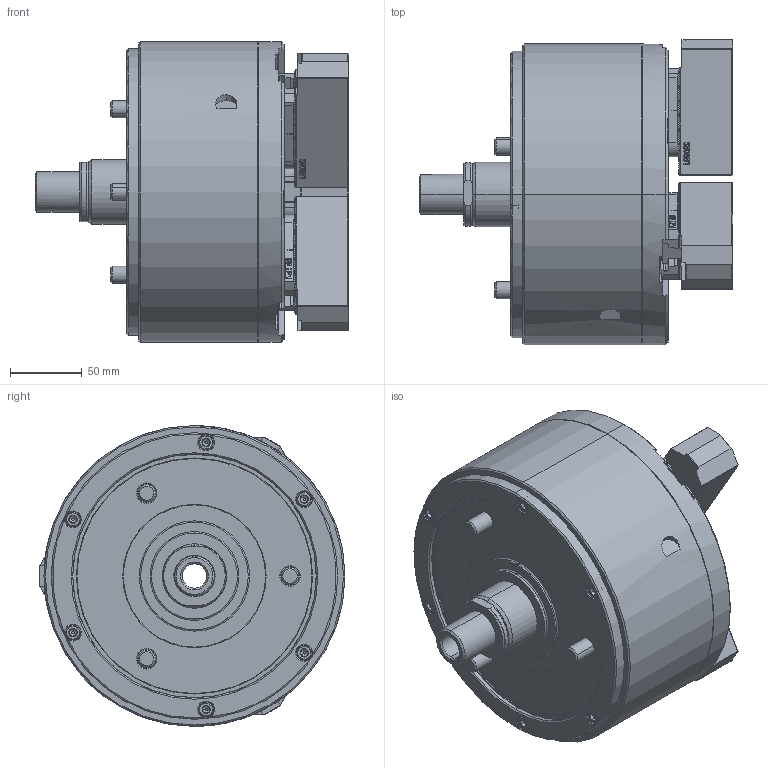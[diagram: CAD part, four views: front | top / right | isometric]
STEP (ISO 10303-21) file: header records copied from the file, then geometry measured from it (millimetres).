
FILE_DESCRIPTION (( 'STEP AP214' ), '1' );
FILE_NAME ('DL208_OC_ID.STEP', '2019-11-12T03:50:08', ( '' ), ( '' ), 'SwSTEP 2.0', 'SolidWorks 2017', '' );
FILE_SCHEMA (( 'AUTOMOTIVE_DESIGN' ));
Length unit declared in the file: millimetre
Products named in the file (10): 61P451466; 61P304291; DL208_OC_ID; 結合_ID; 0030112030
Assembly tree (13 placements, depth 2):
  DL208_OC_ID
    61P304291  x3
    61P451466  x3
    0030112030
    0030112030
    0030112030
    0030112030
    0030112030
    0030112030
    結合_ID
Bounding box: 218.76 x 213.45 x 210 mm (x, y, z)
Volume: 4021806.6 mm3; surface area: 314694.4 mm2
Topology: 13 solids, 13 shells, 7050 faces, 19490 edges, 12762 vertices
Faces by surface type: plane 4010, cylinder 1456, bspline 1189, cone 357, torus 38
Entity records: 208924 total; most frequent: CARTESIAN_POINT 78478, ORIENTED_EDGE 30332, DIRECTION 21819, EDGE_CURVE 15166, VECTOR 10235, LINE 10235, VERTEX_POINT 9930, EDGE_LOOP 5900
